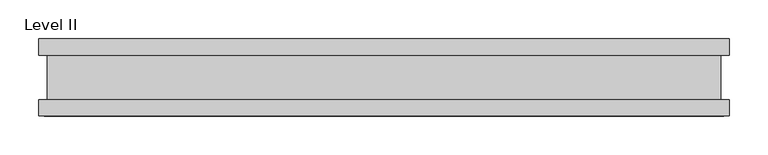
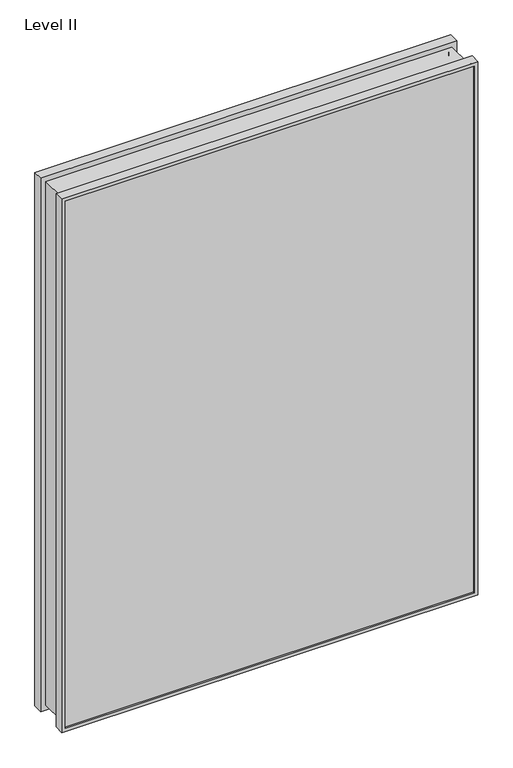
"""IFC4 building model written with IfcOpenShell, lengths in millimetres: proxy geometry, Panel-Fascia-Teknion-Altos-Mid_Glass : Level II."""

import ifcopenshell
import ifcopenshell.guid

model = None  # the IFC model being written
_history = None  # IfcOwnerHistory: only IFC2X3 demands one
_inside = {}  # id of a spatial element -> (the spatial element, [elements in it])
_under = {}  # id of a project, library or spatial element -> (it, [spatial elements below it])
_declared = {}  # id of a project -> (the project, [libraries it declares])
_typed = {}  # id of a type object -> (the type object, [elements of that type])
_made_of = {}  # id of a material, layer set ... -> (it, [elements and type objects made of it])


def new_model(schema):
    """Start an empty IFC model of exactly this schema.

    Asked for "IFC4X3", IfcOpenShell would pick the latest addendum, in which some entities
    have other attributes; the version numbers below select the first issue.
    IFC2X3 requires an IfcOwnerHistory on every rooted entity: one is made here for all.
    """
    global model, _history
    if schema == "IFC4X3":
        model = ifcopenshell.file(schema_version=(4, 3, 0, 0))
    else:
        model = ifcopenshell.file(schema=schema)
    _inside.clear()
    _under.clear()
    _declared.clear()
    _typed.clear()
    _made_of.clear()
    _history = None
    if model.schema == "IFC2X3":
        org = make("IfcOrganization", Name="unknown")
        user = make(
            "IfcPersonAndOrganization",
            ThePerson=make("IfcPerson", FamilyName="unknown"),
            TheOrganization=org,
        )
        app = make(
            "IfcApplication",
            ApplicationDeveloper=org,
            Version="unknown",
            ApplicationFullName="unknown",
            ApplicationIdentifier="unknown",
        )
        _history = make(
            "IfcOwnerHistory",
            OwningUser=user,
            OwningApplication=app,
            ChangeAction="ADDED",
            CreationDate=0,
        )
    return model


def make(cls, **values):
    """One entity of the class cls with the attributes given. An attribute that is None is left unset."""
    return model.create_entity(
        cls, **{name: value for name, value in values.items() if value is not None}
    )


def rooted(cls, **values):
    """An entity with a GlobalId (a new one), such as an element, a storey or a relation."""
    return make(cls, GlobalId=ifcopenshell.guid.new(), OwnerHistory=_history, **values)


def si_unit(unit_type, name, prefix=None):
    """IfcSIUnit, for example si_unit("LENGTHUNIT", "METRE", prefix="MILLI")."""
    return make("IfcSIUnit", UnitType=unit_type, Prefix=prefix, Name=name)


def assignment(units):
    """IfcUnitAssignment: the units of a project."""
    return None if units is None else make("IfcUnitAssignment", Units=units)


def point(xyz):
    """IfcCartesianPoint."""
    return None if xyz is None else make("IfcCartesianPoint", Coordinates=xyz)


def direction(xyz):
    """IfcDirection."""
    return None if xyz is None else make("IfcDirection", DirectionRatios=xyz)


def frame(location, z_axis=None, x_axis=None):
    """IfcAxis2Placement3D, a coordinate frame: its origin and axes. An axis left out is left unset."""
    return make(
        "IfcAxis2Placement3D",
        Location=point(location),
        Axis=direction(z_axis),
        RefDirection=direction(x_axis),
    )


def origin():
    """The frame at (0, 0, 0) with its axes left unset."""
    return frame((0.0, 0.0, 0.0))


def place(relative_to, where):
    """IfcLocalPlacement: puts the frame where relative to a parent placement (None: the world)."""
    return make(
        "IfcLocalPlacement", PlacementRelTo=relative_to, RelativePlacement=where
    )


def context(
    kind, dimensions, precision=None, world=None, true_north=None, identifier=None
):
    """IfcGeometricRepresentationContext, for example the 3D "Model" context."""
    return make(
        "IfcGeometricRepresentationContext",
        ContextIdentifier=identifier,
        ContextType=kind,
        CoordinateSpaceDimension=dimensions,
        Precision=precision,
        WorldCoordinateSystem=world,
        TrueNorth=true_north,
    )


def project(units=None, contexts=None):
    """IfcProject with its units and contexts."""
    return rooted(
        "IfcProject",
        Name="project",
        RepresentationContexts=contexts,
        UnitsInContext=assignment(units),
    )


def spatial(cls, under=None, at=None, **own):
    """A site, building, storey or space (cls), placed at a placement, below another one or the project."""
    s = rooted(cls, ObjectPlacement=at, **own)
    if under is not None:
        _under.setdefault(under.id(), (under, []))[1].append(s)
    return s


def polyline(points):
    """IfcPolyline through the points."""
    return make("IfcPolyline", Points=[point(p) for p in points])


def ellipse_curve(where, semi_axis1, semi_axis2):
    """IfcEllipse in the frame where."""
    return make(
        "IfcEllipse", Position=where, SemiAxis1=semi_axis1, SemiAxis2=semi_axis2
    )


def outline(outer, holes=None, kind="AREA"):
    """IfcArbitraryClosedProfileDef: a profile drawn as a closed curve; with holes, ...WithVoids."""
    if holes is None:
        return make("IfcArbitraryClosedProfileDef", ProfileType=kind, OuterCurve=outer)
    return make(
        "IfcArbitraryProfileDefWithVoids",
        ProfileType=kind,
        OuterCurve=outer,
        InnerCurves=holes,
    )


def extrude(swept, where, along, depth):
    """IfcExtrudedAreaSolid: the profile swept, set in the frame where, extruded along a direction by depth."""
    return make(
        "IfcExtrudedAreaSolid",
        SweptArea=swept,
        Position=where,
        ExtrudedDirection=direction(along),
        Depth=depth,
    )


def shape(context_of_items, identifier, shape_type, items):
    """IfcShapeRepresentation: the items that make up one representation, for example the "Body"."""
    return make(
        "IfcShapeRepresentation",
        ContextOfItems=context_of_items,
        RepresentationIdentifier=identifier,
        RepresentationType=shape_type,
        Items=items,
    )


def source(mapping_origin, context_of_items, identifier, shape_type, items):
    """IfcRepresentationMap: a shape defined once, which mapped items show again and again."""
    return make(
        "IfcRepresentationMap",
        MappingOrigin=mapping_origin,
        MappedRepresentation=shape(context_of_items, identifier, shape_type, items),
    )


def transform(
    local_origin,
    x_axis=None,
    y_axis=None,
    z_axis=None,
    scale=None,
    scale2=None,
    scale3=None,
    uniform=True,
):
    """IfcCartesianTransformationOperator3D, or its non-uniform kind. x_axis, y_axis, z_axis: its Axis1, 2, 3."""
    if uniform:
        return make(
            "IfcCartesianTransformationOperator3D",
            Axis1=direction(x_axis),
            Axis2=direction(y_axis),
            LocalOrigin=point(local_origin),
            Scale=scale,
            Axis3=direction(z_axis),
        )
    return make(
        "IfcCartesianTransformationOperator3DnonUniform",
        Axis1=direction(x_axis),
        Axis2=direction(y_axis),
        LocalOrigin=point(local_origin),
        Scale=scale,
        Axis3=direction(z_axis),
        Scale2=scale2,
        Scale3=scale3,
    )


def mapped(mapping_source, mapping_target):
    """IfcMappedItem: shows the shape of a source again, moved by a transform."""
    return make(
        "IfcMappedItem", MappingSource=mapping_source, MappingTarget=mapping_target
    )


def made_of(thing, what):
    """Note that an element or type object is made of a material, layer set ...; save() writes the relation."""
    if what is not None:
        _made_of.setdefault(what.id(), (what, []))[1].append(thing)
    return thing


def element(
    cls,
    number,
    at=None,
    inside=None,
    cuts=None,
    type_object=None,
    material=None,
    context=None,
    identifier="Body",
    shape_type=None,
    held_by="IfcProductDefinitionShape",
    body=None,
    shapes=None,
    **own,
):
    """One element of the class cls, such as IfcWall. Its Tag is "e" and its number.

    at: its placement. inside: the storey or other place that contains it. cuts: it is an
    opening in that element (IfcRelVoidsElement). A single representation is given by context,
    identifier, shape_type and body (its items); several are given by shapes. held_by: the class
    of the entity that holds the representations. save() writes the other relations.
    """
    e = rooted(cls, Tag="e%d" % number, ObjectPlacement=at, **own)
    if body is not None:
        shapes = [shape(context, identifier, shape_type, body)]
    if shapes is not None:
        e.Representation = make(held_by, Representations=shapes)
    if inside is not None:
        _inside.setdefault(inside.id(), (inside, []))[1].append(e)
    if cuts is not None:
        rooted(
            "IfcRelVoidsElement", RelatingBuildingElement=cuts, RelatedOpeningElement=e
        )
    if type_object is not None:
        _typed.setdefault(type_object.id(), (type_object, []))[1].append(e)
    return made_of(e, material)


def aggregate(whole, parts):
    """IfcRelAggregates: a whole, such as a stair, and the parts it consists of."""
    return rooted("IfcRelAggregates", RelatingObject=whole, RelatedObjects=parts)


def save(model, path):
    """Write the relations noted so far, then the file.

    IfcRelAggregates (storeys below a building ...), IfcRelContainedInSpatialStructure (elements
    in a storey), IfcRelDefinesByType, IfcRelAssociatesMaterial and IfcRelDeclares: one each for
    every whole, place, type object, material and project.
    """
    for whole, parts in _under.values():
        aggregate(whole, parts)
    for where, things in _inside.values():
        rooted(
            "IfcRelContainedInSpatialStructure",
            RelatedElements=things,
            RelatingStructure=where,
        )
    for kind, things in _typed.values():
        rooted("IfcRelDefinesByType", RelatedObjects=things, RelatingType=kind)
    for what, things in _made_of.values():
        rooted("IfcRelAssociatesMaterial", RelatedObjects=things, RelatingMaterial=what)
    for by, libraries in _declared.values():
        rooted("IfcRelDeclares", RelatingContext=by, RelatedDefinitions=libraries)
    model.write(path)


def plane_surface(at):
    """IfcPlane: the flat surface through the origin of the frame at, square to its z axis."""
    return make("IfcPlane", Position=at)


def cylinder_surface(at, radius):
    """IfcCylindricalSurface: all points at the distance radius from the z axis of the frame at."""
    return make("IfcCylindricalSurface", Position=at, Radius=radius)


def advanced_brep(points, edges, surfaces, faces):
    """IfcAdvancedBrep: a solid bounded by faces that lie on surfaces and meet in shared edges.

    An edge is (start, end): straight between two places in points (the first is 0);
    or (start, end, curve); or (start, end, curve, False) where it runs against its curve.
    A face is (place in surfaces, loops), or (place, loops, False) where it looks against
    its surface's normal. A loop lists edges by number (the first is 1), with a minus sign
    where the edge is run from its end to its start. The first loop is the outer one.
    """
    corners = [point(p) for p in points]
    vertices = [make("IfcVertexPoint", VertexGeometry=c) for c in corners]
    made = []
    for start, end, *more in edges:
        made.append(
            make(
                "IfcEdgeCurve",
                EdgeStart=vertices[start],
                EdgeEnd=vertices[end],
                EdgeGeometry=more[0] if more else make("IfcPolyline", Points=[corners[start], corners[end]]),
                SameSense=more[1] if len(more) > 1 else True,
            )
        )
    hull = []
    for where, loops, *sense in faces:
        bounds = []
        for j, loop in enumerate(loops):
            ring = [make("IfcOrientedEdge", EdgeElement=made[abs(k) - 1], Orientation=k > 0) for k in loop]
            bounds.append(
                make(
                    "IfcFaceOuterBound" if j == 0 else "IfcFaceBound",
                    Bound=make("IfcEdgeLoop", EdgeList=ring),
                    Orientation=True,
                )
            )
        hull.append(make("IfcAdvancedFace", Bounds=bounds, FaceSurface=surfaces[where], SameSense=sense[0] if sense else True))
    return make("IfcAdvancedBrep", Outer=make("IfcClosedShell", CfsFaces=hull))


def level_ii_d7c51a2e(model_context):
    return source(origin(), model_context, "Body", "SolidModel", [
        advanced_brep(
        [(447.0402343, 50.0558594, 1216.025), (447.0402343, 28.2698798, 1216.025), (447.0402343, 28.2698798, 3.175), (447.0402343, 50.0558594, 3.175), (439.6050265, 47.1322551, 1208.5897922), (439.6050265, 50.0558594, 1208.5897922), (439.6050265, 50.0558594, 10.6102078), (439.6050265, 47.1322551, 10.6102078), (444.887708, 41.1791301, 1213.8724737), (444.887708, 47.1322551, 1213.8724737), (444.887708, 47.1322551, 5.3275263), (444.887708, 41.1791301, 5.3275263), (439.0828189, -40.9277344, 1208.0675845), (439.0828189, 41.1791301, 1208.0675845), (439.0828189, 41.1791301, 11.1324155), (439.0828189, -40.9277344, 11.1324155), (444.887708, -46.8808594, 1213.8724737), (444.887708, -40.9277344, 1213.8724737), (444.887708, -40.9277344, 5.3275263), (444.887708, -46.8808594, 5.3275263), (439.6050265, -50.0558594, 1208.5897922), (439.6050265, -46.8808594, 1208.5897922), (439.6050265, -46.8808594, 10.6102078), (439.6050265, -50.0558594, 10.6102078), (447.0402343, -28.8801202, 1216.025), (447.0402343, -50.0558594, 1216.025), (447.0402343, -50.0558594, 3.175), (447.0402343, -28.8801202, 3.175), (436.1883929, 28.2698798, 1205.1731586), (436.1883929, -28.8801202, 1205.1731586), (436.1883929, -28.8801202, 14.0268414), (436.1883929, 28.2698798, 14.0268414), (-447.0402343, 28.2698798, 3.175), (-447.0402343, 50.0558594, 3.175), (-439.6050265, 50.0558594, 10.6102078), (-439.6050265, 47.1322551, 10.6102078), (-444.887708, 47.1322551, 5.3275263), (-444.887708, 41.1791301, 5.3275263), (-439.0828189, 41.1791301, 11.1324155), (-439.0828189, -40.9277344, 11.1324155), (-444.887708, -40.9277344, 5.3275263), (-444.887708, -46.8808594, 5.3275263), (-439.6050265, -46.8808594, 10.6102078), (-439.6050265, -50.0558594, 10.6102078), (-447.0402343, -50.0558594, 3.175), (-447.0402343, -28.8801202, 3.175), (-436.1883929, -28.8801202, 14.0268414), (-436.1883929, 28.2698798, 14.0268414), (-447.0402343, 28.2698798, 1216.025), (-447.0402343, 50.0558594, 1216.025), (-439.6050265, 50.0558594, 1208.5897922), (-439.6050265, 47.1322551, 1208.5897922), (-444.887708, 47.1322551, 1213.8724737), (-444.887708, 41.1791301, 1213.8724737), (-439.0828189, 41.1791301, 1208.0675845), (-439.0828189, -40.9277344, 1208.0675845), (-444.887708, -40.9277344, 1213.8724737), (-444.887708, -46.8808594, 1213.8724737), (-439.6050265, -46.8808594, 1208.5897922), (-439.6050265, -50.0558594, 1208.5897922), (-447.0402343, -50.0558594, 1216.025), (-447.0402343, -28.8801202, 1216.025), (-436.1883929, -28.8801202, 1205.1731586), (-436.1883929, 28.2698798, 1205.1731586)],
        [
            (0, 1),
            (1, 2),
            (2, 3),
            (3, 0),
            (4, 5),
            (5, 6),
            (6, 7),
            (7, 4),
            (8, 9),
            (9, 10),
            (10, 11),
            (11, 8),
            (12, 13, ellipse_curve(frame((478.4686612, 0.1256979, 1247.4534268), z_axis=(0.7071067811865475, 0.0, -0.7071067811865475), x_axis=(0.7071067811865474, 0.0, 0.7071067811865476)), 80.4565581, 56.8913778)),
            (13, 14),
            (14, 15, ellipse_curve(frame((478.4686612, 0.1256979, -28.2534268), z_axis=(0.7071067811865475, 0.0, 0.7071067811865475), x_axis=(-0.7071067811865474, 0.0, 0.7071067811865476)), 80.4565581, 56.8913778)),
            (15, 12),
            (16, 17),
            (17, 18),
            (18, 19),
            (19, 16),
            (20, 21),
            (21, 22),
            (22, 23),
            (23, 20),
            (24, 25),
            (25, 26),
            (26, 27),
            (27, 24),
            (28, 29),
            (29, 30),
            (30, 31),
            (31, 28),
            (2, 32),
            (32, 33),
            (33, 3),
            (6, 34),
            (34, 35),
            (35, 7),
            (10, 36),
            (36, 37),
            (37, 11),
            (14, 38),
            (38, 39, ellipse_curve(frame((-478.4686612, 0.1256979, -28.2534268), z_axis=(0.7071067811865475, 0.0, -0.7071067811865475), x_axis=(0.7071067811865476, 0.0, 0.7071067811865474)), 80.4565581, 56.8913778)),
            (39, 15),
            (18, 40),
            (40, 41),
            (41, 19),
            (22, 42),
            (42, 43),
            (43, 23),
            (26, 44),
            (44, 45),
            (45, 27),
            (30, 46),
            (46, 47),
            (47, 31),
            (32, 48),
            (48, 49),
            (49, 33),
            (34, 50),
            (50, 51),
            (51, 35),
            (36, 52),
            (52, 53),
            (53, 37),
            (38, 54),
            (54, 55, ellipse_curve(frame((-478.4686612, 0.1256979, 1247.4534268), z_axis=(-0.7071067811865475, 0.0, -0.7071067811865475), x_axis=(0.7071067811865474, 0.0, -0.7071067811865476)), 80.4565581, 56.8913778)),
            (55, 39),
            (40, 56),
            (56, 57),
            (57, 41),
            (42, 58),
            (58, 59),
            (59, 43),
            (44, 60),
            (60, 61),
            (61, 45),
            (46, 62),
            (62, 63),
            (63, 47),
            (48, 1),
            (0, 49),
            (5, 50),
            (4, 51),
            (9, 52),
            (8, 53),
            (13, 54),
            (12, 55),
            (17, 56),
            (16, 57),
            (21, 58),
            (20, 59),
            (25, 60),
            (24, 61),
            (29, 62),
            (28, 63),
        ],
        [
            plane_surface(frame((447.0402343, 28.2698798, 1216.025), z_axis=(1.0, 0.0, 0.0), x_axis=(0.0, 0.0, -1.0))),
            plane_surface(frame((439.6050265, 50.0558594, 1208.5897922), z_axis=(-1.0, 0.0, 0.0), x_axis=(0.0, 0.0, -1.0))),
            plane_surface(frame((444.887708, 47.1322551, 1213.8724737), z_axis=(-1.0, 0.0, 0.0), x_axis=(0.0, 0.0, -1.0))),
            cylinder_surface(frame((478.4686612, 0.1256979, 1216.025), z_axis=(0.0, 0.0, 1.0), x_axis=(1.0, 0.0, 0.0)), 56.8913778),
            plane_surface(frame((444.887708, -40.9277344, 1213.8724737), z_axis=(-1.0, 0.0, 0.0), x_axis=(0.0, 0.0, -1.0))),
            plane_surface(frame((439.6050265, -46.8808594, 1208.5897922), z_axis=(-1.0, 0.0, 0.0), x_axis=(0.0, 0.0, -1.0))),
            plane_surface(frame((447.0402343, -50.0558594, 1216.025), z_axis=(1.0, 0.0, 0.0), x_axis=(0.0, 0.0, -1.0))),
            plane_surface(frame((436.1883929, -28.8801202, 1205.1731586), z_axis=(1.0, 0.0, 0.0), x_axis=(0.0, 0.0, -1.0))),
            plane_surface(frame((447.0402343, 28.2698798, 3.175), z_axis=(0.0, 0.0, -1.0), x_axis=(-1.0, 0.0, 0.0))),
            plane_surface(frame((439.6050265, 50.0558594, 10.6102078), z_axis=(0.0, 0.0, 1.0), x_axis=(-1.0, 0.0, 0.0))),
            plane_surface(frame((444.887708, 47.1322551, 5.3275263), z_axis=(0.0, 0.0, 1.0), x_axis=(-1.0, 0.0, 0.0))),
            cylinder_surface(frame((447.0402343, 0.1256979, -28.2534268), z_axis=(1.0, 0.0, 0.0), x_axis=(0.0, 0.0, -1.0)), 56.8913778),
            plane_surface(frame((444.887708, -40.9277344, 5.3275263), z_axis=(0.0, 0.0, 1.0), x_axis=(-1.0, 0.0, 0.0))),
            plane_surface(frame((439.6050265, -46.8808594, 10.6102078), z_axis=(0.0, 0.0, 1.0), x_axis=(-1.0, 0.0, 0.0))),
            plane_surface(frame((447.0402343, -50.0558594, 3.175), z_axis=(0.0, 0.0, -1.0), x_axis=(-1.0, 0.0, 0.0))),
            plane_surface(frame((436.1883929, -28.8801202, 14.0268414), z_axis=(0.0, 0.0, -1.0), x_axis=(-1.0, 0.0, 0.0))),
            plane_surface(frame((-447.0402343, 28.2698798, 3.175), z_axis=(-1.0, 0.0, 0.0), x_axis=(0.0, 0.0, 1.0))),
            plane_surface(frame((-439.6050265, 50.0558594, 10.6102078), z_axis=(1.0, 0.0, 0.0), x_axis=(0.0, 0.0, 1.0))),
            plane_surface(frame((-444.887708, 47.1322551, 5.3275263), z_axis=(1.0, 0.0, 0.0), x_axis=(0.0, 0.0, 1.0))),
            cylinder_surface(frame((-478.4686612, 0.1256979, 3.175), z_axis=(0.0, 0.0, -1.0), x_axis=(-1.0, 0.0, 0.0)), 56.8913778),
            plane_surface(frame((-444.887708, -40.9277344, 5.3275263), z_axis=(1.0, 0.0, 0.0), x_axis=(0.0, 0.0, 1.0))),
            plane_surface(frame((-439.6050265, -46.8808594, 10.6102078), z_axis=(1.0, 0.0, 0.0), x_axis=(0.0, 0.0, 1.0))),
            plane_surface(frame((-447.0402343, -50.0558594, 3.175), z_axis=(-1.0, 0.0, 0.0), x_axis=(0.0, 0.0, 1.0))),
            plane_surface(frame((-436.1883929, -28.8801202, 14.0268414), z_axis=(-1.0, 0.0, 0.0), x_axis=(0.0, 0.0, 1.0))),
            plane_surface(frame((-447.0402343, 28.2698798, 1216.025), z_axis=(0.0, 0.0, 1.0), x_axis=(1.0, 0.0, 0.0))),
            plane_surface(frame((-447.0402343, 50.0558594, 1216.025), z_axis=(0.0, 1.0, 0.0), x_axis=(1.0, 0.0, 0.0))),
            plane_surface(frame((-439.6050265, 50.0558594, 1208.5897922), z_axis=(0.0, 0.0, -1.0), x_axis=(1.0, 0.0, 0.0))),
            plane_surface(frame((-439.6050265, 47.1322551, 1208.5897922), z_axis=(0.0, -1.0, 0.0), x_axis=(1.0, 0.0, 0.0))),
            plane_surface(frame((-444.887708, 47.1322551, 1213.8724737), z_axis=(0.0, 0.0, -1.0), x_axis=(1.0, 0.0, 0.0))),
            plane_surface(frame((-444.887708, 41.1791301, 1213.8724737), z_axis=(0.0, 1.0, 0.0), x_axis=(1.0, 0.0, 0.0))),
            cylinder_surface(frame((-447.0402343, 0.1256979, 1247.4534268), z_axis=(-1.0, 0.0, 0.0), x_axis=(0.0, 0.0, 1.0)), 56.8913778),
            plane_surface(frame((-439.0828189, -40.9277344, 1208.0675845), z_axis=(0.0, -1.0, 0.0), x_axis=(1.0, 0.0, 0.0))),
            plane_surface(frame((-444.887708, -40.9277344, 1213.8724737), z_axis=(0.0, 0.0, -1.0), x_axis=(1.0, 0.0, 0.0))),
            plane_surface(frame((-444.887708, -46.8808594, 1213.8724737), z_axis=(0.0, 1.0, 0.0), x_axis=(1.0, 0.0, 0.0))),
            plane_surface(frame((-439.6050265, -46.8808594, 1208.5897922), z_axis=(0.0, 0.0, -1.0), x_axis=(1.0, 0.0, 0.0))),
            plane_surface(frame((-439.6050265, -50.0558594, 1208.5897922), z_axis=(0.0, -1.0, 0.0), x_axis=(1.0, 0.0, 0.0))),
            plane_surface(frame((-447.0402343, -50.0558594, 1216.025), z_axis=(0.0, 0.0, 1.0), x_axis=(1.0, 0.0, 0.0))),
            plane_surface(frame((-447.0402343, -28.8801202, 1216.025), z_axis=(0.0, 1.0, 0.0), x_axis=(1.0, 0.0, 0.0))),
            plane_surface(frame((-436.1883929, -28.8801202, 1205.1731586), z_axis=(0.0, 0.0, 1.0), x_axis=(1.0, 0.0, 0.0))),
            plane_surface(frame((-436.1883929, 28.2698798, 1205.1731586), z_axis=(0.0, -1.0, 0.0), x_axis=(1.0, 0.0, 0.0))),
        ],
        [
            (0, [[1, 2, 3, 4]]),
            (1, [[5, 6, 7, 8]]),
            (2, [[9, 10, 11, 12]]),
            (3, [[13, 14, 15, 16]]),
            (4, [[17, 18, 19, 20]]),
            (5, [[21, 22, 23, 24]]),
            (6, [[25, 26, 27, 28]]),
            (7, [[29, 30, 31, 32]]),
            (8, [[-3, 33, 34, 35]]),
            (9, [[-7, 36, 37, 38]]),
            (10, [[-11, 39, 40, 41]]),
            (11, [[-15, 42, 43, 44]]),
            (12, [[-19, 45, 46, 47]]),
            (13, [[-23, 48, 49, 50]]),
            (14, [[-27, 51, 52, 53]]),
            (15, [[-31, 54, 55, 56]]),
            (16, [[-34, 57, 58, 59]]),
            (17, [[-37, 60, 61, 62]]),
            (18, [[-40, 63, 64, 65]]),
            (19, [[-43, 66, 67, 68]]),
            (20, [[-46, 69, 70, 71]]),
            (21, [[-49, 72, 73, 74]]),
            (22, [[-52, 75, 76, 77]]),
            (23, [[-55, 78, 79, 80]]),
            (24, [[-58, 81, -1, 82]]),
            (25, [[-35, -59, -82, -4], [83, -60, -36, -6]]),
            (26, [[-61, -83, -5, 84]]),
            (27, [[85, -63, -39, -10], [-38, -62, -84, -8]]),
            (28, [[-64, -85, -9, 86]]),
            (29, [[-41, -65, -86, -12], [87, -66, -42, -14]]),
            (30, [[-67, -87, -13, 88]]),
            (31, [[89, -69, -45, -18], [-44, -68, -88, -16]]),
            (32, [[-70, -89, -17, 90]]),
            (33, [[-47, -71, -90, -20], [91, -72, -48, -22]]),
            (34, [[-73, -91, -21, 92]]),
            (35, [[93, -75, -51, -26], [-50, -74, -92, -24]]),
            (36, [[-76, -93, -25, 94]]),
            (37, [[-53, -77, -94, -28], [95, -78, -54, -30]]),
            (38, [[-79, -95, -29, 96]]),
            (39, [[-81, -57, -33, -2], [-56, -80, -96, -32]]),
        ],
    ),
        extrude(outline(polyline([(444.887708, -40.9277344), (444.887708, -46.8808594), (-444.887708, -46.8808594), (-444.887708, -40.9277344), (444.887708, -40.9277344)])), frame((0.0, 0.0, 5.3275263), z_axis=(0.0, 0.0, 1.0), x_axis=(1.0, 0.0, 0.0)), (0.0, 0.0, 1.0), 1208.050928),
        extrude(outline(polyline([(444.887708, 41.1791301), (-444.887708, 41.1791301), (-444.887708, 47.1322551), (444.887708, 47.1322551), (444.887708, 41.1791301)])), frame((0.0, 0.0, 5.3275263), z_axis=(0.0, 0.0, 1.0), x_axis=(1.0, 0.0, 0.0)), (0.0, 0.0, 1.0), 1208.050928),
    ])


if __name__ == "__main__":
    model = new_model("IFC4")
    model_context = context("Model", 3, world=origin())
    ifc_project = project(units=[si_unit("LENGTHUNIT", "METRE", prefix="MILLI")], contexts=[model_context])
    site = spatial("IfcSite", under=ifc_project)
    building = spatial("IfcBuilding", under=site)
    placement = place(None, origin())
    level_ii_shape = level_ii_d7c51a2e(model_context)
    element("IfcBuildingElementProxy", 1, Name="Panel-Fascia-Teknion-Altos-Mid_Glass : Level II", ObjectType="Panel-Fascia-Teknion-Altos-Mid_Glass : Level II", at=placement, inside=building, context=model_context, shape_type="MappedRepresentation", body=[
        mapped(level_ii_shape, transform((0.0, 0.0, 0.0), x_axis=(1.0, 0.0, 0.0), y_axis=(0.0, 1.0, 0.0), z_axis=(0.0, 0.0, 1.0))),
    ])
    save(model, "model.ifc")
